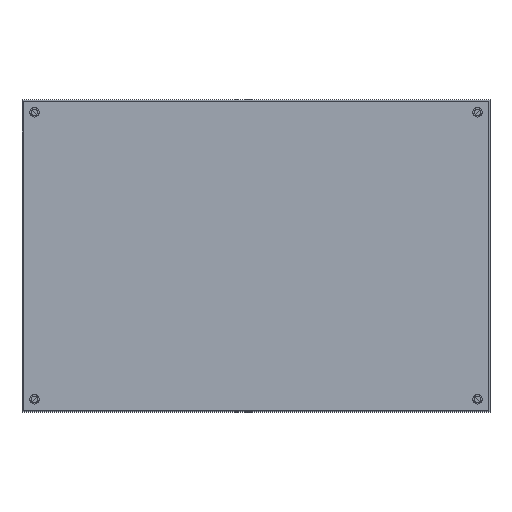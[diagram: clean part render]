
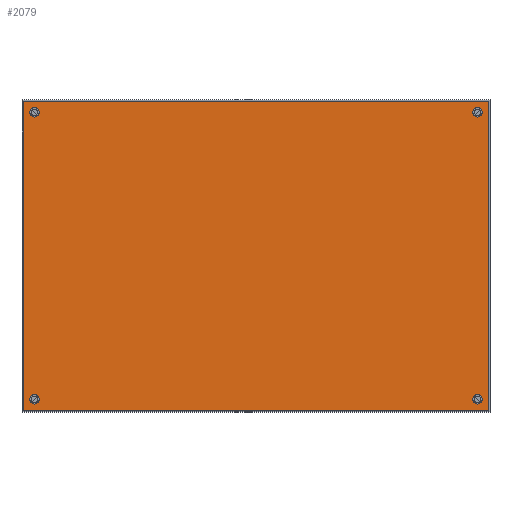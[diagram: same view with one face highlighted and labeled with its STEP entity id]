
A CAD part, top view. The second image highlights one B-rep face of the part: STEP entity #2079.
In plain terms, the highlighted planar face has unit normal (0, 0, 1).
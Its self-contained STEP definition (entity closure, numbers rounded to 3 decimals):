
#207=CIRCLE('',#2895,3.);
#209=CIRCLE('',#2898,3.);
#211=CIRCLE('',#2901,3.);
#213=CIRCLE('',#2904,3.);
#719=ORIENTED_EDGE('',*,*,#1009,.F.);
#720=ORIENTED_EDGE('',*,*,#1007,.F.);
#721=ORIENTED_EDGE('',*,*,#1005,.F.);
#722=ORIENTED_EDGE('',*,*,#1003,.F.);
#723=ORIENTED_EDGE('',*,*,#1010,.F.);
#724=ORIENTED_EDGE('',*,*,#1011,.F.);
#725=ORIENTED_EDGE('',*,*,#1012,.F.);
#726=ORIENTED_EDGE('',*,*,#1001,.F.);
#1001=EDGE_CURVE('',#1190,#1191,#1352,.T.);
#1003=EDGE_CURVE('',#1192,#1192,#207,.T.);
#1005=EDGE_CURVE('',#1194,#1194,#209,.T.);
#1007=EDGE_CURVE('',#1196,#1196,#211,.T.);
#1009=EDGE_CURVE('',#1198,#1198,#213,.T.);
#1010=EDGE_CURVE('',#1199,#1190,#1354,.T.);
#1011=EDGE_CURVE('',#1200,#1199,#1355,.T.);
#1012=EDGE_CURVE('',#1191,#1200,#1356,.T.);
#1190=VERTEX_POINT('',#4148);
#1191=VERTEX_POINT('',#4150);
#1192=VERTEX_POINT('',#4154);
#1194=VERTEX_POINT('',#4159);
#1196=VERTEX_POINT('',#4164);
#1198=VERTEX_POINT('',#4169);
#1199=VERTEX_POINT('',#4171);
#1200=VERTEX_POINT('',#4173);
#1352=LINE('',#4149,#1504);
#1354=LINE('',#4170,#1506);
#1355=LINE('',#4172,#1507);
#1356=LINE('',#4174,#1508);
#1504=VECTOR('',#3451,1000.);
#1506=VECTOR('',#3475,1000.);
#1507=VECTOR('',#3476,1000.);
#1508=VECTOR('',#3477,1000.);
#1673=EDGE_LOOP('',(#719));
#1674=EDGE_LOOP('',(#720));
#1675=EDGE_LOOP('',(#721));
#1676=EDGE_LOOP('',(#722));
#1677=EDGE_LOOP('',(#723,#724,#725,#726));
#1862=FACE_BOUND('',#1673,.T.);
#1863=FACE_BOUND('',#1674,.T.);
#1864=FACE_BOUND('',#1675,.T.);
#1865=FACE_BOUND('',#1676,.T.);
#1866=FACE_BOUND('',#1677,.T.);
#1958=PLANE('',#2903);
#2079=ADVANCED_FACE('',(#1862,#1863,#1864,#1865,#1866),#1958,.F.);
#2895=AXIS2_PLACEMENT_3D('',#4153,#3455,#3456);
#2898=AXIS2_PLACEMENT_3D('',#4158,#3461,#3462);
#2901=AXIS2_PLACEMENT_3D('',#4163,#3467,#3468);
#2903=AXIS2_PLACEMENT_3D('',#4167,#3471,#3472);
#2904=AXIS2_PLACEMENT_3D('',#4168,#3473,#3474);
#3451=DIRECTION('',(0.,1.,0.));
#3455=DIRECTION('',(0.,0.,1.));
#3456=DIRECTION('',(0.,1.,0.));
#3461=DIRECTION('',(0.,0.,1.));
#3462=DIRECTION('',(0.,1.,0.));
#3467=DIRECTION('',(0.,0.,1.));
#3468=DIRECTION('',(0.,1.,0.));
#3471=DIRECTION('',(0.,0.,-1.));
#3472=DIRECTION('',(-1.,0.,0.));
#3473=DIRECTION('',(0.,0.,1.));
#3474=DIRECTION('',(0.,1.,0.));
#3475=DIRECTION('',(-1.,0.,0.));
#3476=DIRECTION('',(0.,-1.,0.));
#3477=DIRECTION('',(1.,0.,0.));
#4148=CARTESIAN_POINT('',(-149.25,-99.25,0.));
#4149=CARTESIAN_POINT('',(-149.25,-99.25,0.));
#4150=CARTESIAN_POINT('',(-149.25,99.25,0.));
#4153=CARTESIAN_POINT('',(-142.,-92.,0.));
#4154=CARTESIAN_POINT('',(-142.,-89.,0.));
#4158=CARTESIAN_POINT('',(-142.,92.,0.));
#4159=CARTESIAN_POINT('',(-142.,95.,0.));
#4163=CARTESIAN_POINT('',(142.,-92.,0.));
#4164=CARTESIAN_POINT('',(142.,-89.,0.));
#4167=CARTESIAN_POINT('',(0.,0.,0.));
#4168=CARTESIAN_POINT('',(142.,92.,0.));
#4169=CARTESIAN_POINT('',(142.,95.,0.));
#4170=CARTESIAN_POINT('',(149.25,-99.25,0.));
#4171=CARTESIAN_POINT('',(149.25,-99.25,0.));
#4172=CARTESIAN_POINT('',(149.25,99.25,0.));
#4173=CARTESIAN_POINT('',(149.25,99.25,0.));
#4174=CARTESIAN_POINT('',(-149.25,99.25,0.));
